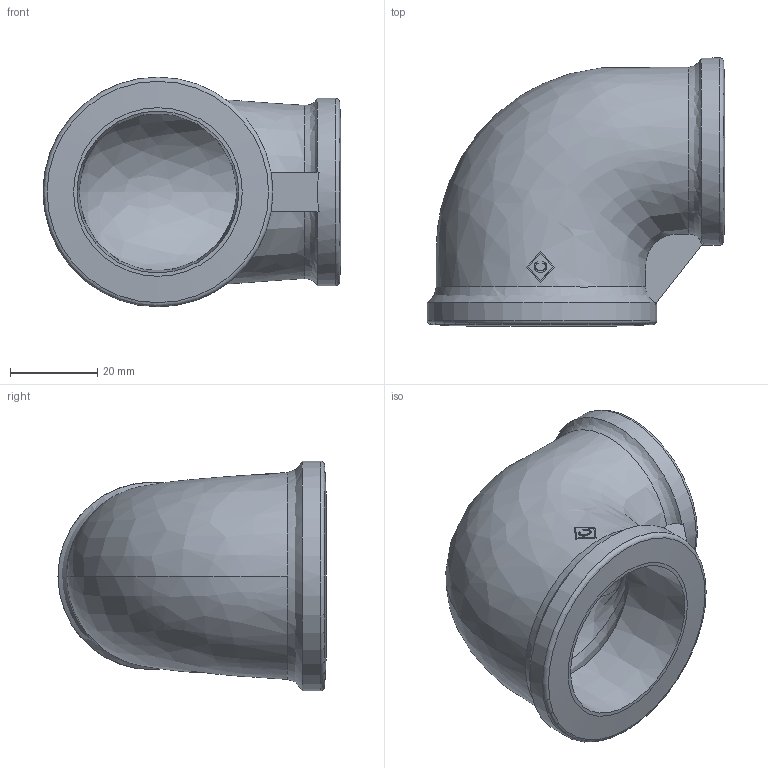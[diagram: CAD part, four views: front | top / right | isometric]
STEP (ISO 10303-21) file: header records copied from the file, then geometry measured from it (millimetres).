
FILE_DESCRIPTION((''),'2;1');
FILE_NAME('P:\Fastrack\53909_CRANE\Crane\Fig.151 Elbow\New 1.25 inch\151-1.25x1.00.stp','2009-09-15T11:23:52',('btaylor'),(''),'Autodesk Inventor 2008','Autodesk Inventor 2008','');
FILE_SCHEMA(('AUTOMOTIVE_DESIGN { 1 0 10303 214 1 1 1 1 }'));
Length unit declared in the file: millimetre
Products named in the file (1): 151-1.25x1.00
Bounding box: 68.35 x 61.5 x 52.7 mm (x, y, z)
Volume: 43249 mm3; surface area: 20441.7 mm2
Topology: 1 solids, 1 shells, 41 faces, 137 edges, 101 vertices
Faces by surface type: bspline 18, plane 15, cone 4, torus 2, cylinder 2
Full cylindrical faces by diameter (mm): 43 x1, 52.7 x1
Entity records: 5238 total; most frequent: CARTESIAN_POINT 4173, ORIENTED_EDGE 256, DIRECTION 140, EDGE_CURVE 128, VERTEX_POINT 100, B_SPLINE_CURVE_WITH_KNOTS 70, AXIS2_PLACEMENT_3D 58, EDGE_LOOP 54
